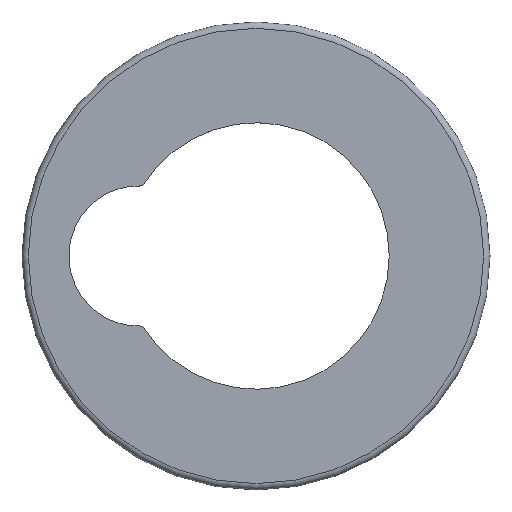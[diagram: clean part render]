
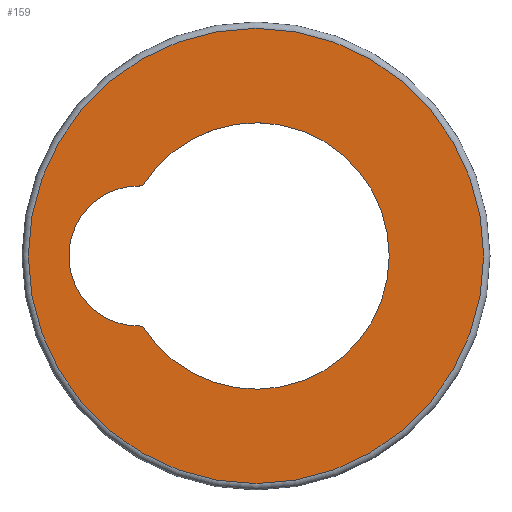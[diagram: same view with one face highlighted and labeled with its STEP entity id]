
A CAD part, top view. The second image highlights one B-rep face of the part: STEP entity #159.
In plain terms, the highlighted planar face has unit normal (0, 0, 1).
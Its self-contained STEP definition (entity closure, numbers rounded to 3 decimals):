
#66 = TOROIDAL_SURFACE('',#67,35.02,0.98);
#67 = AXIS2_PLACEMENT_3D('',#68,#69,#70);
#68 = CARTESIAN_POINT('',(0.,0.,42.02));
#69 = DIRECTION('',(0.,0.,1.));
#70 = DIRECTION('',(1.,0.,-0.));
#110 = VERTEX_POINT('',#111);
#111 = CARTESIAN_POINT('',(35.02,0.,43.));
#133 = EDGE_CURVE('',#110,#110,#134,.T.);
#134 = SURFACE_CURVE('',#135,(#140,#147),.PCURVE_S1.);
#135 = CIRCLE('',#136,35.02);
#136 = AXIS2_PLACEMENT_3D('',#137,#138,#139);
#137 = CARTESIAN_POINT('',(0.,0.,43.));
#138 = DIRECTION('',(0.,0.,1.));
#139 = DIRECTION('',(1.,0.,-0.));
#140 = PCURVE('',#66,#141);
#141 = DEFINITIONAL_REPRESENTATION('',(#142),#146);
#142 = LINE('',#143,#144);
#143 = CARTESIAN_POINT('',(0.,1.571));
#144 = VECTOR('',#145,1.);
#145 = DIRECTION('',(1.,0.));
#146 = ( GEOMETRIC_REPRESENTATION_CONTEXT(2) 
PARAMETRIC_REPRESENTATION_CONTEXT() REPRESENTATION_CONTEXT('2D SPACE',''
  ) );
#147 = PCURVE('',#148,#153);
#148 = PLANE('',#149);
#149 = AXIS2_PLACEMENT_3D('',#150,#151,#152);
#150 = CARTESIAN_POINT('',(0.,0.,43.));
#151 = DIRECTION('',(0.,0.,1.));
#152 = DIRECTION('',(1.,0.,-0.));
#153 = DEFINITIONAL_REPRESENTATION('',(#154),#158);
#154 = CIRCLE('',#155,35.02);
#155 = AXIS2_PLACEMENT_2D('',#156,#157);
#156 = CARTESIAN_POINT('',(0.,0.));
#157 = DIRECTION('',(1.,0.));
#158 = ( GEOMETRIC_REPRESENTATION_CONTEXT(2) 
PARAMETRIC_REPRESENTATION_CONTEXT() REPRESENTATION_CONTEXT('2D SPACE',''
  ) );
#159 = ADVANCED_FACE('',(#160,#163),#148,.T.);
#160 = FACE_BOUND('',#161,.T.);
#161 = EDGE_LOOP('',(#162));
#162 = ORIENTED_EDGE('',*,*,#133,.T.);
#163 = FACE_BOUND('',#164,.T.);
#164 = EDGE_LOOP('',(#165,#200));
#165 = ORIENTED_EDGE('',*,*,#166,.T.);
#166 = EDGE_CURVE('',#167,#169,#171,.T.);
#167 = VERTEX_POINT('',#168);
#168 = CARTESIAN_POINT('',(-17.434,10.785,43.));
#169 = VERTEX_POINT('',#170);
#170 = CARTESIAN_POINT('',(-17.434,-10.785,43.));
#171 = SURFACE_CURVE('',#172,(#177,#188),.PCURVE_S1.);
#172 = CIRCLE('',#173,20.5);
#173 = AXIS2_PLACEMENT_3D('',#174,#175,#176);
#174 = CARTESIAN_POINT('',(0.,0.,43.));
#175 = DIRECTION('',(0.,0.,-1.));
#176 = DIRECTION('',(-0.85,0.526,0.));
#177 = PCURVE('',#148,#178);
#178 = DEFINITIONAL_REPRESENTATION('',(#179),#187);
#179 = ( BOUNDED_CURVE() B_SPLINE_CURVE(2,(#180,#181,#182,#183,#184,#185
,#186),.UNSPECIFIED.,.T.,.F.) B_SPLINE_CURVE_WITH_KNOTS((1,2,2,2,2,1),(
    -2.094,0.,2.094,4.189,6.283,
8.378),.UNSPECIFIED.) CURVE() GEOMETRIC_REPRESENTATION_ITEM() 
RATIONAL_B_SPLINE_CURVE((1.,0.5,1.,0.5,1.,0.5,1.)) REPRESENTATION_ITEM(
  '') );
#180 = CARTESIAN_POINT('',(-17.434,10.785));
#181 = CARTESIAN_POINT('',(1.247,40.981));
#182 = CARTESIAN_POINT('',(18.057,9.705));
#183 = CARTESIAN_POINT('',(34.867,-21.57));
#184 = CARTESIAN_POINT('',(-0.623,-20.491));
#185 = CARTESIAN_POINT('',(-36.114,-19.411));
#186 = CARTESIAN_POINT('',(-17.434,10.785));
#187 = ( GEOMETRIC_REPRESENTATION_CONTEXT(2) 
PARAMETRIC_REPRESENTATION_CONTEXT() REPRESENTATION_CONTEXT('2D SPACE',''
  ) );
#188 = PCURVE('',#189,#194);
#189 = CYLINDRICAL_SURFACE('',#190,20.5);
#190 = AXIS2_PLACEMENT_3D('',#191,#192,#193);
#191 = CARTESIAN_POINT('',(0.,0.,40.));
#192 = DIRECTION('',(0.,0.,1.));
#193 = DIRECTION('',(1.,0.,-0.));
#194 = DEFINITIONAL_REPRESENTATION('',(#195),#199);
#195 = LINE('',#196,#197);
#196 = CARTESIAN_POINT('',(8.871,3.));
#197 = VECTOR('',#198,1.);
#198 = DIRECTION('',(-1.,-0.));
#199 = ( GEOMETRIC_REPRESENTATION_CONTEXT(2) 
PARAMETRIC_REPRESENTATION_CONTEXT() REPRESENTATION_CONTEXT('2D SPACE',''
  ) );
#200 = ORIENTED_EDGE('',*,*,#201,.F.);
#201 = EDGE_CURVE('',#167,#169,#202,.T.);
#202 = SURFACE_CURVE('',#203,(#208,#215),.PCURVE_S1.);
#203 = CIRCLE('',#204,10.8);
#204 = AXIS2_PLACEMENT_3D('',#205,#206,#207);
#205 = CARTESIAN_POINT('',(-18.,0.,43.));
#206 = DIRECTION('',(0.,0.,1.));
#207 = DIRECTION('',(1.,0.,-0.));
#208 = PCURVE('',#148,#209);
#209 = DEFINITIONAL_REPRESENTATION('',(#210),#214);
#210 = CIRCLE('',#211,10.8);
#211 = AXIS2_PLACEMENT_2D('',#212,#213);
#212 = CARTESIAN_POINT('',(-18.,0.));
#213 = DIRECTION('',(1.,0.));
#214 = ( GEOMETRIC_REPRESENTATION_CONTEXT(2) 
PARAMETRIC_REPRESENTATION_CONTEXT() REPRESENTATION_CONTEXT('2D SPACE',''
  ) );
#215 = PCURVE('',#216,#221);
#216 = CYLINDRICAL_SURFACE('',#217,10.8);
#217 = AXIS2_PLACEMENT_3D('',#218,#219,#220);
#218 = CARTESIAN_POINT('',(-18.,0.,40.));
#219 = DIRECTION('',(0.,0.,1.));
#220 = DIRECTION('',(1.,0.,-0.));
#221 = DEFINITIONAL_REPRESENTATION('',(#222),#226);
#222 = LINE('',#223,#224);
#223 = CARTESIAN_POINT('',(0.,3.));
#224 = VECTOR('',#225,1.);
#225 = DIRECTION('',(1.,0.));
#226 = ( GEOMETRIC_REPRESENTATION_CONTEXT(2) 
PARAMETRIC_REPRESENTATION_CONTEXT() REPRESENTATION_CONTEXT('2D SPACE',''
  ) );
